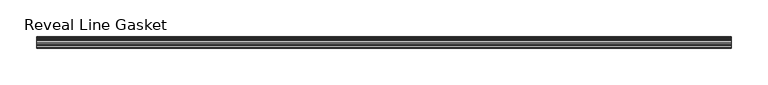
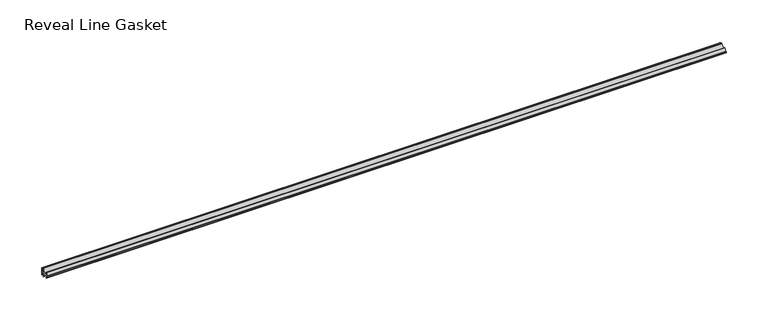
"""IFC4 building model written with IfcOpenShell, lengths in millimetres: proxy geometry, Accessories-Teknion-FHGR-AI_Healthcare-Reveal_Line_Gasket(Horizontal)-R2022 : Reveal Line Gasket."""

from ifc_helpers import new_model, si_unit, point, frame, frame_2d, origin, place, context, project, spatial, polyline, circle_curve, trimmed, segment, composite_curve, outline, extrude, source, transform, mapped, element, save


def reveal_line_gasket_9874843c(model_context):
    return source(origin(), model_context, "Body", "SweptSolid", [
        extrude(outline(composite_curve([segment(polyline([(7.6326998, 1603.2), (7.6326998, 1597.2), (7.4091917, 1596.2445073), (6.8813059, 1595.3115316)]), True, "CONTINUOUS"), segment(trimmed(circle_curve(frame_2d((6.5243141, 1595.5135207)), 0.4101739), [point((6.8813059, 1595.3115316))], [point((6.1246704, 1595.6058653))], False, "CARTESIAN"), True, "CONTINUOUS"), segment(polyline([(6.1246704, 1595.6058653), (6.3626997, 1597.3020914), (6.3626997, 1599.3345473)]), True, "CONTINUOUS"), segment(trimmed(circle_curve(frame_2d((5.6959605, 1598.9180742)), 0.786124), [point((6.3626997, 1599.3345473))], [point((5.0926996, 1599.422125))], True, "CARTESIAN"), True, "CONTINUOUS"), segment(polyline([(5.0926996, 1599.422125), (0.7492996, 1599.422125), (3.7293824, 1594.2604705)]), True, "CONTINUOUS"), segment(trimmed(circle_curve(frame_2d((3.3132479, 1594.1950239)), 0.4212495), [point((3.7293824, 1594.2604705))], [point((3.0485022, 1593.8673642))], False, "CARTESIAN"), True, "CONTINUOUS"), segment(polyline([(3.0485022, 1593.8673642), (-0.5742594, 1599.422125), (-4.8262978, 1599.422125), (-3.1660374, 1596.5464703)]), True, "CONTINUOUS"), segment(trimmed(circle_curve(frame_2d((-3.5978728, 1596.4881145)), 0.4357605), [point((-3.1660374, 1596.5464703))], [point((-3.864328, 1596.1433119))], False, "CARTESIAN"), True, "CONTINUOUS"), segment(polyline([(-3.864328, 1596.1433119), (-6.1944059, 1599.422125), (-7.6326998, 1599.422125), (-7.6326998, 1600.977875), (-6.1944059, 1600.977875), (-3.864328, 1604.2566881)]), True, "CONTINUOUS"), segment(trimmed(circle_curve(frame_2d((-3.5978728, 1603.9118855)), 0.4357605), [point((-3.864328, 1604.2566881))], [point((-3.1660374, 1603.8535297))], False, "CARTESIAN"), True, "CONTINUOUS"), segment(polyline([(-3.1660374, 1603.8535297), (-4.8262978, 1600.977875), (-0.5742594, 1600.977875), (3.0485022, 1606.5326358)]), True, "CONTINUOUS"), segment(trimmed(circle_curve(frame_2d((3.3132479, 1606.2049761)), 0.4212495), [point((3.0485022, 1606.5326358))], [point((3.7293824, 1606.1395295))], False, "CARTESIAN"), True, "CONTINUOUS"), segment(polyline([(3.7293824, 1606.1395295), (0.7492996, 1600.977875), (5.0926996, 1600.977875)]), True, "CONTINUOUS"), segment(trimmed(circle_curve(frame_2d((5.6959605, 1601.4819258)), 0.786124), [point((5.0926996, 1600.977875))], [point((6.3626997, 1601.0654527))], True, "CARTESIAN"), True, "CONTINUOUS"), segment(polyline([(6.3626997, 1601.0654527), (6.3626997, 1603.0979086), (6.1246704, 1604.7941347)]), True, "CONTINUOUS"), segment(trimmed(circle_curve(frame_2d((6.5243141, 1604.8864793)), 0.4101739), [point((6.1246704, 1604.7941347))], [point((6.8813059, 1605.0884684))], False, "CARTESIAN"), True, "CONTINUOUS"), segment(polyline([(6.8813059, 1605.0884684), (7.4091917, 1604.1554927), (7.6326998, 1603.2)]), True, "CONTINUOUS")], self_intersect=False)), frame((-471.2750006, 0.0, 0.0), z_axis=(1.0, 0.0, 0.0), x_axis=(0.0, 1.0, 0.0)), (0.0, 0.0, 1.0), 942.5500012),
    ])


if __name__ == "__main__":
    model = new_model("IFC4")
    model_context = context("Model", 3, world=origin())
    ifc_project = project(units=[si_unit("LENGTHUNIT", "METRE", prefix="MILLI")], contexts=[model_context])
    site = spatial("IfcSite", under=ifc_project)
    building = spatial("IfcBuilding", under=site)
    placement = place(None, origin())
    reveal_line_gasket_shape = reveal_line_gasket_9874843c(model_context)
    element("IfcBuildingElementProxy", 1, Name="Accessories-Teknion-FHGR-AI_Healthcare-Reveal_Line_Gasket(Horizontal)-R2022 : Reveal Line Gasket", ObjectType="Accessories-Teknion-FHGR-AI_Healthcare-Reveal_Line_Gasket(Horizontal)-R2022 : Reveal Line Gasket", at=placement, inside=building, context=model_context, shape_type="MappedRepresentation", body=[
        mapped(reveal_line_gasket_shape, transform((0.0, 0.0, 0.0), x_axis=(1.0, 0.0, 0.0), y_axis=(0.0, 1.0, 0.0), z_axis=(0.0, 0.0, 1.0))),
    ])
    save(model, "model.ifc")
